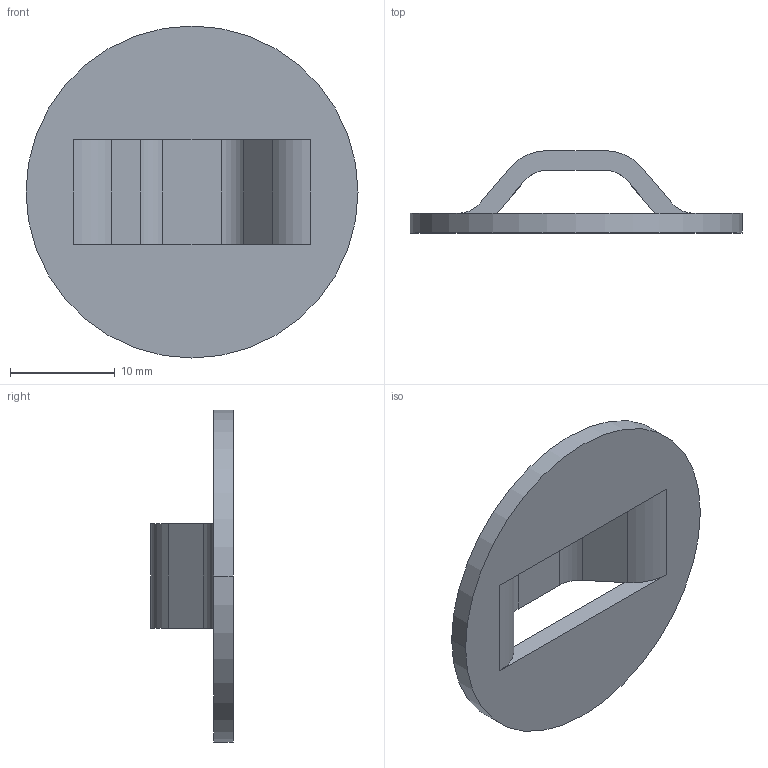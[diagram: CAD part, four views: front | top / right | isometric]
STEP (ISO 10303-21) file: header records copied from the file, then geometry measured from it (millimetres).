
FILE_DESCRIPTION (( 'STEP AP203' ), '1' );
FILE_NAME ('1144617 - 10 -BRIDGE LANCE SGL .787L X .394W X .236H X .074 THK.STEP', '2024-11-18T17:18:56', ( '' ), ( '' ), 'SwSTEP 2.0', 'SolidWorks 2024', '' );
FILE_SCHEMA (( 'CONFIG_CONTROL_DESIGN' ));
Length unit declared in the file: inch
Products named in the file (1): 1144617 - 10 -BRIDGE LANCE SGL .787L X .394W X .236H X .074 THK
Bounding box: 31.75 x 7.87 x 31.75 mm (x, y, z)
Volume: 1576.5 mm3; surface area: 2013.1 mm2
Topology: 1 solids, 1 shells, 22 faces, 62 edges, 40 vertices
Faces by surface type: plane 12, cylinder 10
Entity records: 801 total; most frequent: DIRECTION 128, CARTESIAN_POINT 125, ORIENTED_EDGE 124, EDGE_CURVE 62, AXIS2_PLACEMENT_3D 43, VECTOR 42, LINE 42, VERTEX_POINT 40
